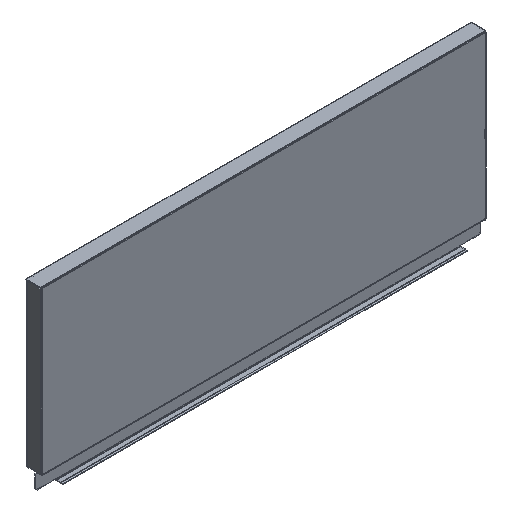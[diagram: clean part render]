
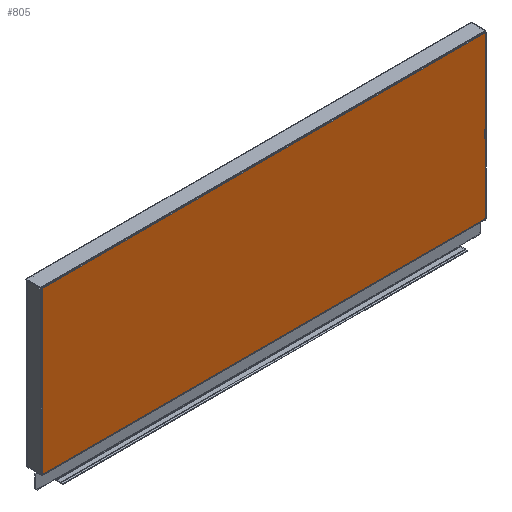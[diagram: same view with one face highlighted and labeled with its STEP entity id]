
A CAD part, isometric view. The second image highlights one B-rep face of the part: STEP entity #805.
In plain terms, the highlighted planar face has unit normal (0, -1, 0).
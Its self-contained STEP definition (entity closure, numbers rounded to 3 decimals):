
#100 = VERTEX_POINT ( 'NONE', #412 ) ;
#104 = VERTEX_POINT ( 'NONE', #411 ) ;
#141 = VERTEX_POINT ( 'NONE', #403 ) ;
#229 = VERTEX_POINT ( 'NONE', #386 ) ;
#235 = VERTEX_POINT ( 'NONE', #385 ) ;
#254 = VERTEX_POINT ( 'NONE', #381 ) ;
#259 = VERTEX_POINT ( 'NONE', #380 ) ;
#263 = VERTEX_POINT ( 'NONE', #379 ) ;
#269 = VERTEX_POINT ( 'NONE', #377 ) ;
#274 = VERTEX_POINT ( 'NONE', #376 ) ;
#376 = CARTESIAN_POINT ( 'NONE',  ( -229., -6., 183.5 ) ) ;
#377 = CARTESIAN_POINT ( 'NONE',  ( -229., -6., 17.5 ) ) ;
#379 = CARTESIAN_POINT ( 'NONE',  ( 229., -6., 183.5 ) ) ;
#380 = CARTESIAN_POINT ( 'NONE',  ( -228.5, -6., 17.5 ) ) ;
#381 = CARTESIAN_POINT ( 'NONE',  ( -228.5, -6., 17. ) ) ;
#385 = CARTESIAN_POINT ( 'NONE',  ( 228.5, -6., 17.5 ) ) ;
#386 = CARTESIAN_POINT ( 'NONE',  ( 229., -6., 17.5 ) ) ;
#403 = CARTESIAN_POINT ( 'NONE',  ( 228.5, -6., 17. ) ) ;
#411 = CARTESIAN_POINT ( 'NONE',  ( -229., -6., 184. ) ) ;
#412 = CARTESIAN_POINT ( 'NONE',  ( 229., -6., 184. ) ) ;
#694 = AXIS2_PLACEMENT_3D ( 'NONE', #1513, #1512, #1510 ) ;
#805 = ADVANCED_FACE ( 'NONE', ( #2172 ), #1514, .T. ) ;
#993 = EDGE_LOOP ( 'NONE', ( #1921, #1920, #1919, #1918, #1917, #1916, #1915, #1914, #1913, #1912 ) ) ;
#1240 = CARTESIAN_POINT ( 'NONE',  ( -229., -6., 202.385 ) ) ;
#1241 = DIRECTION ( 'NONE',  ( 0., 0., -1. ) ) ;
#1252 = CARTESIAN_POINT ( 'NONE',  ( -230., -6., 17.5 ) ) ;
#1253 = DIRECTION ( 'NONE',  ( 1., 0., 0. ) ) ;
#1254 = CARTESIAN_POINT ( 'NONE',  ( -228.5, -6., 17.5 ) ) ;
#1255 = DIRECTION ( 'NONE',  ( 0., 0., -1. ) ) ;
#1256 = CARTESIAN_POINT ( 'NONE',  ( -230., -6., 17. ) ) ;
#1257 = DIRECTION ( 'NONE',  ( 1., 0., 0. ) ) ;
#1258 = CARTESIAN_POINT ( 'NONE',  ( 228.5, -6., 15.3 ) ) ;
#1259 = DIRECTION ( 'NONE',  ( 0., 0., 1. ) ) ;
#1260 = CARTESIAN_POINT ( 'NONE',  ( 228.5, -6., 17.5 ) ) ;
#1261 = DIRECTION ( 'NONE',  ( 1., 0., 0. ) ) ;
#1262 = CARTESIAN_POINT ( 'NONE',  ( 229., -6., 202.385 ) ) ;
#1263 = DIRECTION ( 'NONE',  ( 0., 0., -1. ) ) ;
#1264 = CARTESIAN_POINT ( 'NONE',  ( 229., -6., 202.385 ) ) ;
#1265 = DIRECTION ( 'NONE',  ( 0., 0., -1. ) ) ;
#1266 = CARTESIAN_POINT ( 'NONE',  ( -230., -6., 184. ) ) ;
#1267 = DIRECTION ( 'NONE',  ( 1., 0., 0. ) ) ;
#1268 = CARTESIAN_POINT ( 'NONE',  ( -229., -6., 202.385 ) ) ;
#1269 = DIRECTION ( 'NONE',  ( 0., 0., -1. ) ) ;
#1510 = DIRECTION ( 'NONE',  ( 1., 0., 0. ) ) ;
#1512 = DIRECTION ( 'NONE',  ( 0., -1., 0. ) ) ;
#1513 = CARTESIAN_POINT ( 'NONE',  ( -230., -6., 17. ) ) ;
#1514 = PLANE ( 'NONE',  #694 ) ;
#1912 = ORIENTED_EDGE ( 'NONE', *, *, #2473, .T. ) ;
#1913 = ORIENTED_EDGE ( 'NONE', *, *, #2472, .F. ) ;
#1914 = ORIENTED_EDGE ( 'NONE', *, *, #2471, .F. ) ;
#1915 = ORIENTED_EDGE ( 'NONE', *, *, #2470, .F. ) ;
#1916 = ORIENTED_EDGE ( 'NONE', *, *, #2469, .T. ) ;
#1917 = ORIENTED_EDGE ( 'NONE', *, *, #2468, .T. ) ;
#1918 = ORIENTED_EDGE ( 'NONE', *, *, #2467, .T. ) ;
#1919 = ORIENTED_EDGE ( 'NONE', *, *, #2466, .T. ) ;
#1920 = ORIENTED_EDGE ( 'NONE', *, *, #2465, .T. ) ;
#1921 = ORIENTED_EDGE ( 'NONE', *, *, #2460, .T. ) ;
#2172 = FACE_OUTER_BOUND ( 'NONE', #993, .T. ) ;
#2372 = LINE ( 'NONE', #1240, #2373 ) ;
#2373 = VECTOR ( 'NONE', #1241, 1000. ) ;
#2380 = LINE ( 'NONE', #1252, #2381 ) ;
#2381 = VECTOR ( 'NONE', #1253, 1000. ) ;
#2382 = LINE ( 'NONE', #1254, #2383 ) ;
#2383 = VECTOR ( 'NONE', #1255, 1000. ) ;
#2384 = LINE ( 'NONE', #1256, #2385 ) ;
#2385 = VECTOR ( 'NONE', #1257, 1000. ) ;
#2386 = LINE ( 'NONE', #1258, #2387 ) ;
#2387 = VECTOR ( 'NONE', #1259, 1000. ) ;
#2388 = LINE ( 'NONE', #1260, #2389 ) ;
#2389 = VECTOR ( 'NONE', #1261, 1000. ) ;
#2390 = LINE ( 'NONE', #1262, #2391 ) ;
#2391 = VECTOR ( 'NONE', #1263, 1000. ) ;
#2392 = LINE ( 'NONE', #1264, #2393 ) ;
#2393 = VECTOR ( 'NONE', #1265, 1000. ) ;
#2394 = LINE ( 'NONE', #1266, #2395 ) ;
#2395 = VECTOR ( 'NONE', #1267, 1000. ) ;
#2396 = LINE ( 'NONE', #1268, #2397 ) ;
#2397 = VECTOR ( 'NONE', #1269, 1000. ) ;
#2460 = EDGE_CURVE ( 'NONE', #274, #269, #2372, .T. ) ;
#2465 = EDGE_CURVE ( 'NONE', #269, #259, #2380, .T. ) ;
#2466 = EDGE_CURVE ( 'NONE', #259, #254, #2382, .T. ) ;
#2467 = EDGE_CURVE ( 'NONE', #254, #141, #2384, .T. ) ;
#2468 = EDGE_CURVE ( 'NONE', #141, #235, #2386, .T. ) ;
#2469 = EDGE_CURVE ( 'NONE', #235, #229, #2388, .T. ) ;
#2470 = EDGE_CURVE ( 'NONE', #263, #229, #2390, .T. ) ;
#2471 = EDGE_CURVE ( 'NONE', #100, #263, #2392, .T. ) ;
#2472 = EDGE_CURVE ( 'NONE', #104, #100, #2394, .T. ) ;
#2473 = EDGE_CURVE ( 'NONE', #104, #274, #2396, .T. ) ;
